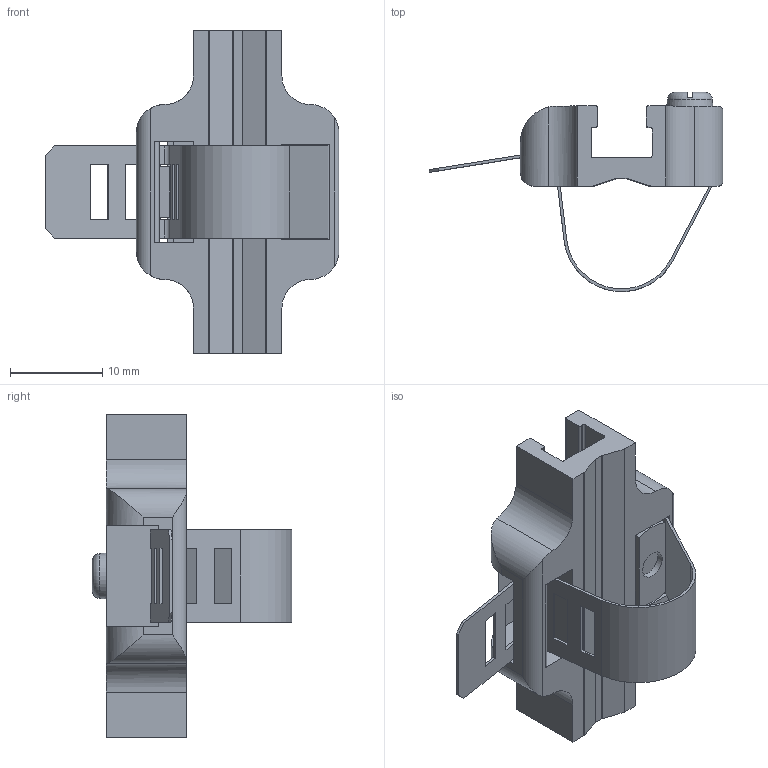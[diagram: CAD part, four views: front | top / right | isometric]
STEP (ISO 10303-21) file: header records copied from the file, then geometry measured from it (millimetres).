
FILE_DESCRIPTION( ( 'STEP AP214' ), ' ' );
FILE_NAME( 'p:/temp/worker_13/3124_3600/app_41_02017120212571738445828192d056f_000000_00_00_000000/format_0/SICK BEF-KHZ-RT1-130-1-Bestell-Nr.2077684 (12).stp', '2017-12-02T11:57:17', ( '' ), ( '' ), ' ', 'PARTsolutions', ' ' );
FILE_SCHEMA( ( 'AUTOMOTIVE_DESIGN { 1 0 10303 214 1 1 1 1 }' ) );
Length unit declared in the file: millimetre
Products named in the file (1): _SICK BEF-KHZ-RT1-130-1-Bestell-Nr.2077684 (12)
Bounding box: 31.92 x 21.63 x 35 mm (x, y, z)
Volume: 2997.3 mm3; surface area: 3991.4 mm2
Topology: 1 solids, 1 shells, 134 faces, 381 edges, 252 vertices
Faces by surface type: plane 87, cylinder 45, cone 1, torus 1
Full cylindrical faces by diameter (mm): 3 x2, 3.2 x1
Entity records: 5512 total; most frequent: CARTESIAN_POINT 883, ORIENTED_EDGE 748, DIRECTION 720, EDGE_CURVE 374, LINE 270, VECTOR 270, VERTEX_POINT 250, AXIS2_PLACEMENT_3D 225
